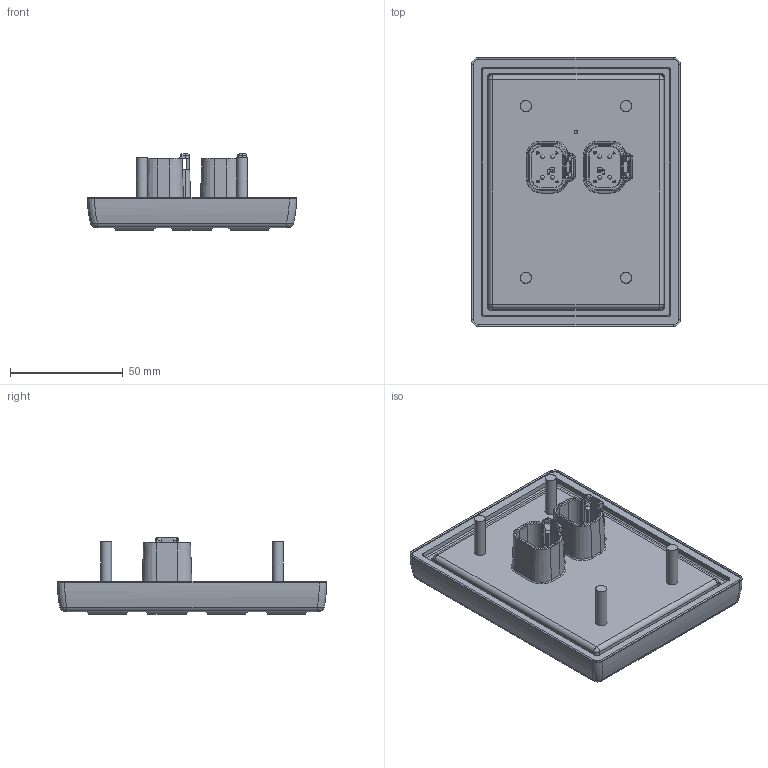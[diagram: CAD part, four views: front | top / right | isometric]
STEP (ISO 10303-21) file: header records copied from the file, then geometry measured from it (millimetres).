
FILE_DESCRIPTION (( 'STEP AP203' ), '1' );
FILE_NAME ('4x3.STEP', '2012-02-28T22:38:19', ( 'Tom Edwards' ), ( 'HED' ), 'SwSTEP 2.0', 'SolidWorks 2010', '' );
FILE_SCHEMA (( 'CONFIG_CONTROL_DESIGN' ));
Length unit declared in the file: inch
Products named in the file (5): 4x3; CL-608-500; 175-45-635; 415-11-618; 186-08-601
Assembly tree (14 placements, depth 2):
  4x3
    186-08-601
    175-45-635  x8
    415-11-618  x4
    CL-608-500
Bounding box: 92.71 x 119.38 x 33.73 mm (x, y, z)
Volume: 80039.5 mm3; surface area: 72008.7 mm2
Topology: 14 solids, 14 shells, 2377 faces, 5766 edges, 3679 vertices
Faces by surface type: plane 1260, cylinder 604, bspline 151, cone 150, torus 128, sphere 84
Full cylindrical faces by diameter (mm): 1.524 x8, 1.562 x8, 1.575 x8, 1.6 x1, 1.638 x8, 1.778 x4, 2.794 x46, 3.048 x8, 3.175 x8, 4.826 x4, 5.08 x4, 5.461 x6, 8.255 x1
Entity records: 60976 total; most frequent: CARTESIAN_POINT 15806, DIRECTION 9102, ORIENTED_EDGE 8944, EDGE_CURVE 4472, AXIS2_PLACEMENT_3D 3221, VERTEX_POINT 2926, VECTOR 2660, LINE 2660
